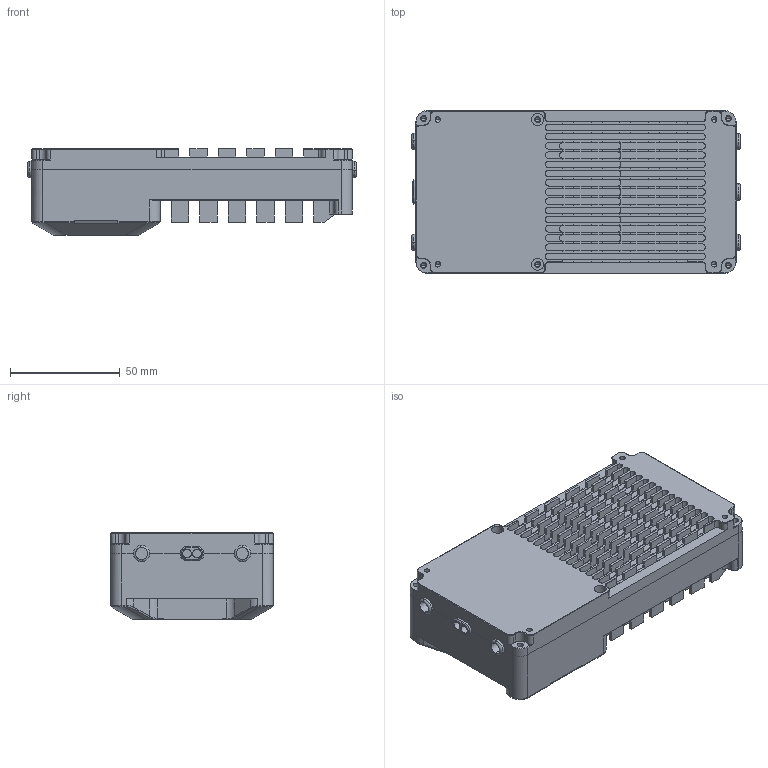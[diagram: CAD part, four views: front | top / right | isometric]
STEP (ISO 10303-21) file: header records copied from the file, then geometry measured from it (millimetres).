
FILE_DESCRIPTION (( 'STEP AP203' ), '1' );
FILE_NAME ('V200A-24S .STEP', '2025-09-08T03:28:40', ( '微软用户' ), ( '微软中国' ), 'SwSTEP 2.0', 'SolidWorks 2022', '' );
FILE_SCHEMA (( 'CONFIG_CONTROL_DESIGN' ));
Length unit declared in the file: millimetre
Products named in the file (5): 10AWG（线径5-; 信号线，编码器线（4mm）护线圈-; V200A-24S电调下盖-A; V200A-24S ; V200A-24S电调上盖-A
Assembly tree (8 placements, depth 2):
  V200A-24S 
    V200A-24S电调上盖-A
    V200A-24S电调下盖-A
    10AWG（线径5-  x5
    信号线，编码器线（4mm）护线圈-
Bounding box: 150 x 74 x 39.5 mm (x, y, z)
Volume: 80313.6 mm3; surface area: 104194 mm2
Topology: 8 solids, 8 shells, 1601 faces, 4479 edges, 2901 vertices
Faces by surface type: plane 1060, cylinder 419, cone 73, bspline 33, torus 14, sphere 2
Entity records: 51669 total; most frequent: CARTESIAN_POINT 10875, ORIENTED_EDGE 8650, DIRECTION 8063, EDGE_CURVE 4325, LINE 3405, VECTOR 3405, VERTEX_POINT 2829, AXIS2_PLACEMENT_3D 2329
